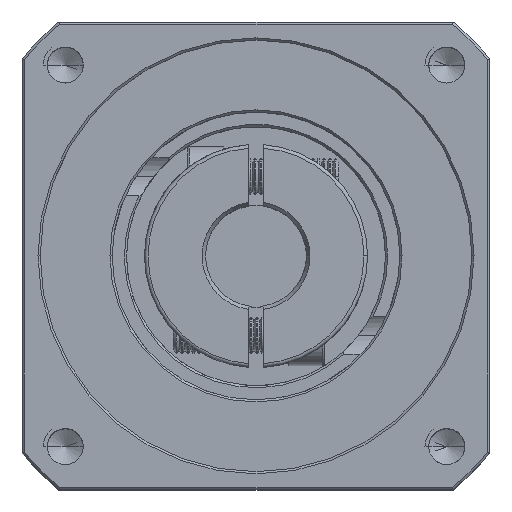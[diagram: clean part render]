
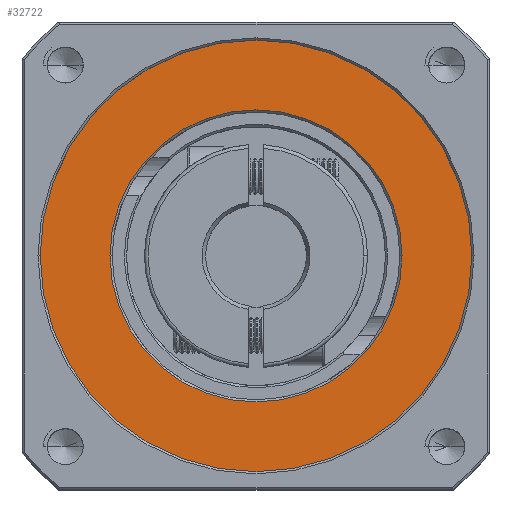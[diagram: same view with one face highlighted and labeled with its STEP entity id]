
A CAD part, top view. The second image highlights one B-rep face of the part: STEP entity #32722.
In plain terms, the highlighted planar face has unit normal (0, 0, 1).
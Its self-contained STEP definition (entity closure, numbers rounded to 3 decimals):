
#146 = FACE_BOUND ( 'NONE', #63497, .T. ) ;
#693 = VERTEX_POINT ( 'NONE', #68920 ) ;
#1340 = ORIENTED_EDGE ( 'NONE', *, *, #56575, .T. ) ;
#5028 = DIRECTION ( 'NONE',  ( 1., 0., 0. ) ) ;
#5689 = CARTESIAN_POINT ( 'NONE',  ( -35.47, 28.173, 12.447 ) ) ;
#6923 = EDGE_CURVE ( 'NONE', #693, #80485, #58768, .T. ) ;
#8671 = AXIS2_PLACEMENT_3D ( 'NONE', #21393, #76357, #29256 ) ;
#11183 = ORIENTED_EDGE ( 'NONE', *, *, #6923, .T. ) ;
#15104 = DIRECTION ( 'NONE',  ( 0., 0., -1. ) ) ;
#20056 = DIRECTION ( 'NONE',  ( 0., 0., 1. ) ) ;
#20367 = CARTESIAN_POINT ( 'NONE',  ( -85.77, 28.173, 12.447 ) ) ;
#21393 = CARTESIAN_POINT ( 'NONE',  ( -65.47, 28.173, 12.447 ) ) ;
#21679 = EDGE_CURVE ( 'NONE', #75064, #95142, #66279, .T. ) ;
#22724 = AXIS2_PLACEMENT_3D ( 'NONE', #24335, #79292, #32211 ) ;
#24335 = CARTESIAN_POINT ( 'NONE',  ( -65.47, 28.173, 12.447 ) ) ;
#29256 = DIRECTION ( 'NONE',  ( 1., 0., 0. ) ) ;
#32110 = ORIENTED_EDGE ( 'NONE', *, *, #21679, .T. ) ;
#32211 = DIRECTION ( 'NONE',  ( 1., 0., 0. ) ) ;
#32722 = ADVANCED_FACE ( 'NONE', ( #146, #39467 ), #50970, .T. ) ;
#36877 = CIRCLE ( 'NONE', #8671, 30. ) ;
#39042 = CARTESIAN_POINT ( 'NONE',  ( -95.47, 28.173, 12.447 ) ) ;
#39467 = FACE_OUTER_BOUND ( 'NONE', #44781, .T. ) ;
#44781 = EDGE_LOOP ( 'NONE', ( #32110, #96139 ) ) ;
#50970 = PLANE ( 'NONE',  #89219 ) ;
#52111 = DIRECTION ( 'NONE',  ( 0., 0., 1. ) ) ;
#54905 = EDGE_CURVE ( 'NONE', #95142, #75064, #36877, .T. ) ;
#56575 = EDGE_CURVE ( 'NONE', #80485, #693, #100329, .T. ) ;
#56956 = AXIS2_PLACEMENT_3D ( 'NONE', #99239, #52111, #5028 ) ;
#58768 = CIRCLE ( 'NONE', #22724, 20.3 ) ;
#62190 = CARTESIAN_POINT ( 'NONE',  ( -65.47, 28.173, 12.447 ) ) ;
#63497 = EDGE_LOOP ( 'NONE', ( #11183, #1340 ) ) ;
#66279 = CIRCLE ( 'NONE', #56956, 30. ) ;
#67139 = CARTESIAN_POINT ( 'NONE',  ( -65.47, 28.173, 12.447 ) ) ;
#68920 = CARTESIAN_POINT ( 'NONE',  ( -45.17, 28.173, 12.447 ) ) ;
#70137 = DIRECTION ( 'NONE',  ( 1., 0., 0. ) ) ;
#72061 = AXIS2_PLACEMENT_3D ( 'NONE', #62190, #15104, #70137 ) ;
#75042 = DIRECTION ( 'NONE',  ( 1., 0., 0. ) ) ;
#75064 = VERTEX_POINT ( 'NONE', #5689 ) ;
#76357 = DIRECTION ( 'NONE',  ( 0., 0., 1. ) ) ;
#79292 = DIRECTION ( 'NONE',  ( 0., 0., -1. ) ) ;
#80485 = VERTEX_POINT ( 'NONE', #20367 ) ;
#89219 = AXIS2_PLACEMENT_3D ( 'NONE', #67139, #20056, #75042 ) ;
#95142 = VERTEX_POINT ( 'NONE', #39042 ) ;
#96139 = ORIENTED_EDGE ( 'NONE', *, *, #54905, .T. ) ;
#99239 = CARTESIAN_POINT ( 'NONE',  ( -65.47, 28.173, 12.447 ) ) ;
#100329 = CIRCLE ( 'NONE', #72061, 20.3 ) ;
